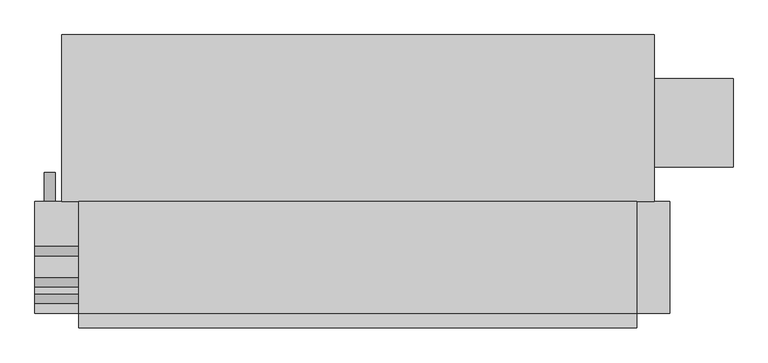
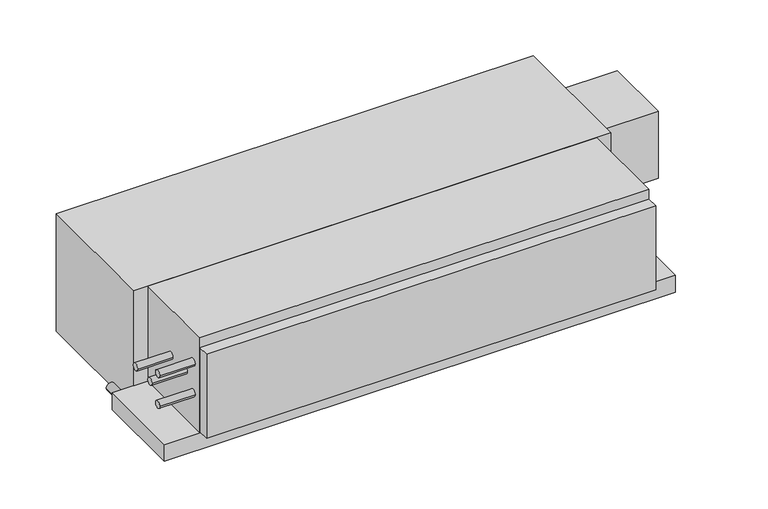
"""IFC4 building model written with IfcOpenShell, lengths in millimetres: proxy geometry, Concealed_Horizontal_Fan_Coil_Unit_With_Plenum_-_42CEA_-_CARRIER_-_4-Pipe_LH_2022 : Size 08 - 277v/60Hz/1Ph - 4/1 Coil."""

from ifc_helpers import new_model, si_unit, point, frame, frame_2d, origin, place, context, project, spatial, polyline, circle_curve, trimmed, segment, composite_curve, outline, extrude, source, transform, mapped, element, save


def mechanical_equipment_f25f2b1d(model_context):
    return source(origin(), model_context, "Body", "SweptSolid", [
        extrude(outline(composite_curve([segment(trimmed(circle_curve(frame_2d((-241.3, -381.0)), 9.525), [point((-241.3, -390.525))], [point((-241.3, -371.475))], False, "CARTESIAN"), True, "CONTINUOUS"), segment(trimmed(circle_curve(frame_2d((-241.3, -381.0)), 9.525), [point((-241.3, -371.475))], [point((-241.3, -390.525))], False, "CARTESIAN"), True, "CONTINUOUS")], self_intersect=False)), frame((0.0, -141.2875, 0.0), z_axis=(0.0, 1.0, 0.0), x_axis=(0.0, 0.0, 1.0)), (0.0, 0.0, 1.0), 50.8),
        extrude(outline(composite_curve([segment(trimmed(circle_curve(frame_2d((-309.5625, -69.85)), 7.9375), [point((-301.625, -69.85))], [point((-317.5, -69.85))], False, "CARTESIAN"), True, "CONTINUOUS"), segment(trimmed(circle_curve(frame_2d((-309.5625, -69.85)), 7.9375), [point((-317.5, -69.85))], [point((-301.625, -69.85))], False, "CARTESIAN"), True, "CONTINUOUS")], self_intersect=False)), frame((-406.4, 0.0, 0.0), z_axis=(1.0, 0.0, 0.0), x_axis=(0.0, 1.0, 0.0)), (0.0, 0.0, 1.0), 76.2),
        extrude(outline(composite_curve([segment(trimmed(circle_curve(frame_2d((-309.5625, -139.7)), 7.9375), [point((-301.625, -139.7))], [point((-317.5, -139.7))], False, "CARTESIAN"), True, "CONTINUOUS"), segment(trimmed(circle_curve(frame_2d((-309.5625, -139.7)), 7.9375), [point((-317.5, -139.7))], [point((-301.625, -139.7))], False, "CARTESIAN"), True, "CONTINUOUS")], self_intersect=False)), frame((-406.4, 0.0, 0.0), z_axis=(1.0, 0.0, 0.0), x_axis=(0.0, 1.0, 0.0)), (0.0, 0.0, 1.0), 76.2),
        extrude(outline(composite_curve([segment(trimmed(circle_curve(frame_2d((-227.0125, -104.775)), 7.9375), [point((-219.075, -104.775))], [point((-234.95, -104.775))], False, "CARTESIAN"), True, "CONTINUOUS"), segment(trimmed(circle_curve(frame_2d((-227.0125, -104.775)), 7.9375), [point((-234.95, -104.775))], [point((-219.075, -104.775))], False, "CARTESIAN"), True, "CONTINUOUS")], self_intersect=False)), frame((-406.4, 0.0, 0.0), z_axis=(1.0, 0.0, 0.0), x_axis=(0.0, 1.0, 0.0)), (0.0, 0.0, 1.0), 76.2),
        extrude(outline(composite_curve([segment(trimmed(circle_curve(frame_2d((-280.9875, -104.775)), 7.9375), [point((-273.05, -104.775))], [point((-288.925, -104.775))], False, "CARTESIAN"), True, "CONTINUOUS"), segment(trimmed(circle_curve(frame_2d((-280.9875, -104.775)), 7.9375), [point((-288.925, -104.775))], [point((-273.05, -104.775))], False, "CARTESIAN"), True, "CONTINUOUS")], self_intersect=False)), frame((-406.4, 0.0, 0.0), z_axis=(1.0, 0.0, 0.0), x_axis=(0.0, 1.0, 0.0)), (0.0, 0.0, 1.0), 76.2),
        extrude(outline(polyline([(635.0, -334.9625), (635.0, -360.3625), (-330.2, -360.3625), (-330.2, -334.9625), (635.0, -334.9625)])), frame((0.0, 0.0, -212.725), z_axis=(0.0, 0.0, 1.0), x_axis=(1.0, 0.0, 0.0)), (0.0, 0.0, 1.0), 190.5),
        extrude(outline(polyline([(635.0, -334.9625), (-330.2, -334.9625), (-330.2, -141.2875), (635.0, -141.2875), (635.0, -334.9625)])), frame((0.0, 0.0, -215.9), z_axis=(0.0, 0.0, 1.0), x_axis=(1.0, 0.0, 0.0)), (0.0, 0.0, 1.0), 215.9),
        extrude(outline(polyline([(692.15, -141.2875), (692.15, -334.9625), (-406.4, -334.9625), (-406.4, -141.2875), (692.15, -141.2875)])), frame((0.0, 0.0, -254.0), z_axis=(0.0, 0.0, 1.0), x_axis=(1.0, 0.0, 0.0)), (0.0, 0.0, 1.0), 38.1),
        extrude(outline(polyline([(801.6875, 71.4375), (801.6875, -80.9625), (665.1625, -80.9625), (665.1625, 71.4375), (801.6875, 71.4375)])), frame((0.0, 0.0, -187.325), z_axis=(0.0, 0.0, 1.0), x_axis=(1.0, 0.0, 0.0)), (0.0, 0.0, 1.0), 152.4),
        extrude(outline(polyline([(-360.3625, 147.6375), (665.1625, 147.6375), (665.1625, -141.2875), (-360.3625, -141.2875), (-360.3625, 147.6375)])), frame((0.0, 0.0, -266.7), z_axis=(0.0, 0.0, 1.0), x_axis=(1.0, 0.0, 0.0)), (0.0, 0.0, 1.0), 266.7),
    ])


if __name__ == "__main__":
    model = new_model("IFC4")
    model_context = context("Model", 3, world=origin())
    ifc_project = project(units=[si_unit("LENGTHUNIT", "METRE", prefix="MILLI")], contexts=[model_context])
    site = spatial("IfcSite", under=ifc_project)
    building = spatial("IfcBuilding", under=site)
    placement = place(None, origin())
    mechanical_equipment_shape = mechanical_equipment_f25f2b1d(model_context)
    element("IfcBuildingElementProxy", 1, Name="Concealed_Horizontal_Fan_Coil_Unit_With_Plenum_-_42CEA_-_CARRIER_-_4-Pipe_LH_2022 : Size 08 - 277v/60Hz/1Ph - 4/1 Coil", ObjectType="Concealed_Horizontal_Fan_Coil_Unit_With_Plenum_-_42CEA_-_CARRIER_-_4-Pipe_LH_2022 : Size 08 - 277v/60Hz/1Ph - 4/1 Coil", at=placement, inside=building, context=model_context, shape_type="MappedRepresentation", body=[
        mapped(mechanical_equipment_shape, transform((0.0, 0.0, 0.0), x_axis=(1.0, 0.0, 0.0), y_axis=(0.0, 1.0, 0.0), z_axis=(0.0, 0.0, 1.0))),
    ])
    save(model, "model.ifc")
